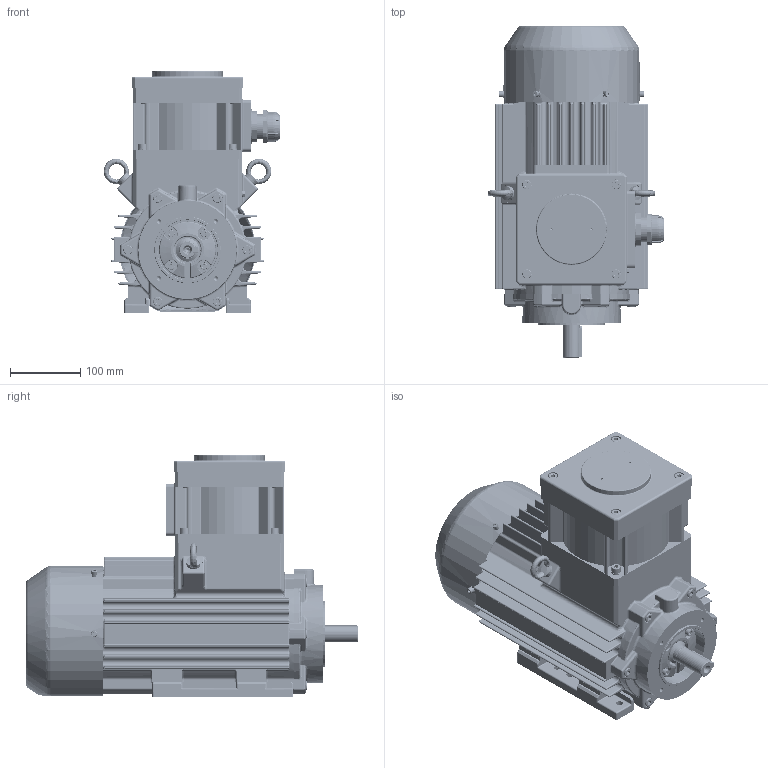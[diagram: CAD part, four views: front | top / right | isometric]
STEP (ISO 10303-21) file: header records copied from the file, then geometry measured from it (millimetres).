
FILE_DESCRIPTION(/* description */ ('Unknown'),/* implementation_level */ '2;1');
FILE_NAME(/* name */ 'Silnik cSTL1e 90 - OUTSIDE !',/* time_stamp */ '2021-12-31T11:24:20+01:00',/* author */ ('Unknown'),/* organization */ ('Unknown'),/* preprocessor_version */ 'ST-DEVELOPER v16.7',/* originating_system */ 'DEX',/* authorisation */ $);
FILE_SCHEMA (('AUTOMOTIVE_DESIGN {1 0 10303 214 3 1 1}'));
Products named in the file (1): Silnik   cSTL1e 90   -  OUTSIDE !
Bounding box: 251.96 x 473 x 345 mm (x, y, z)
Volume: 5843506.8 mm3; surface area: 1212147.1 mm2
Topology: 3 solids, 30 shells, 5048 faces, 13412 edges, 8342 vertices
Faces by surface type: cylinder 1845, plane 1825, torus 514, cone 404, bspline 321, sphere 139
Full cylindrical faces by diameter (mm): 2 x4, 3.2 x4, 4 x1, 4.019 x4, 4.48 x1, 4.773 x8, 4.917 x7, 5 x13, 5.3 x5, 6 x22, 6.466 x20, 6.5 x8, 6.647 x25, 6.88 x1, 8 x46, 8.376 x3, 8.4 x7, 8.5 x4, 9 x14, 10 x19, 11 x4, 13 x24, 15 x17, 22.376 x1, 23.376 x1, 23.6 x1, 23.8 x1, 24 x5, 24.8 x2, 25 x4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
Entity records: 203428 total; most frequent: CARTESIAN_POINT 48133, DIRECTION 24965, ORIENTED_EDGE 24654, EDGE_CURVE 12327, AXIS2_PLACEMENT_3D 9710, VERTEX_POINT 8045, FACE_BOUND 6204, EDGE_LOOP 6160
